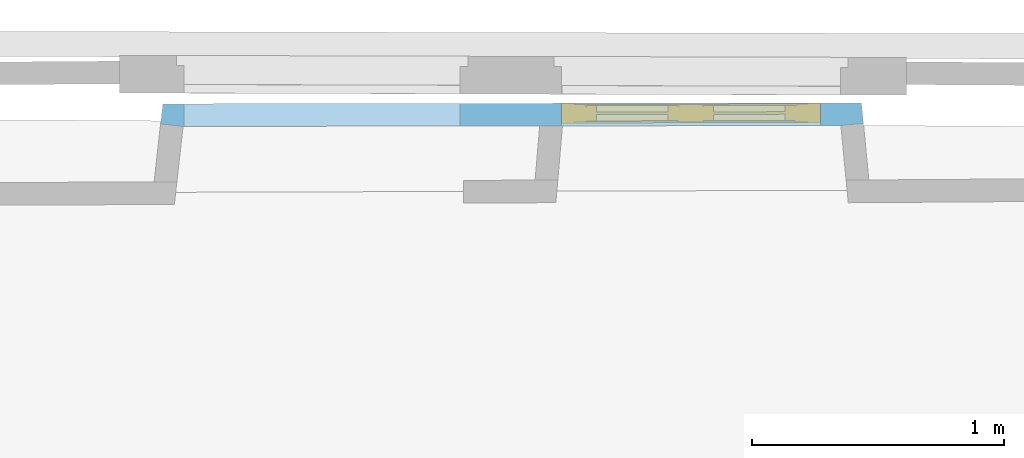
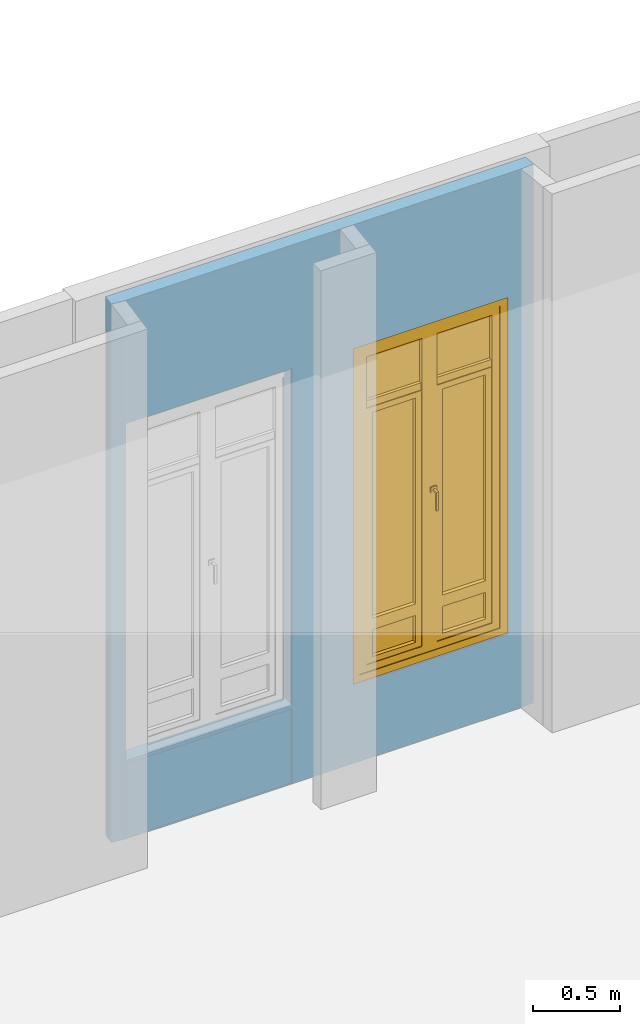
# One storey, part 48 of 66: 1 window, 3 openings, plus 1 element that does not belong to this part.
"""IFC2X3 building model written with IfcOpenShell, lengths in centimetres."""

from ifc_helpers import new_model, entity, si_unit, converted_unit, direction, frame, origin, origin_with_axes, place, context, subcontext, project, spatial, polyline, outline, extrude, faceted_brep, shape, source, transform, mapped, material, material_list, layer, layer_set, layer_usage, type_object, element, fill, save


model = new_model("IFC2X3")

# Units and contexts
model_context = context("Model", 3, precision=0.0001, world=origin(), true_north=direction((0.225632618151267, 0.974212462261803, 0.0)))
body_context = subcontext(model_context, "Body", "Model", "MODEL_VIEW")
footprint_context = subcontext(model_context, "FootPrint", "Model", "MODEL_VIEW")
profile_context = subcontext(model_context, "Profile", "Model", "MODEL_VIEW")
ifc_project = project(units=[si_unit("LENGTHUNIT", "METRE", prefix="CENTI"), si_unit("AREAUNIT", "SQUARE_METRE", prefix="CENTI"), si_unit("VOLUMEUNIT", "CUBIC_METRE", prefix="CENTI"), converted_unit("PLANEANGLEUNIT", "DEGREE", entity("IfcRatioMeasure", 0.0174532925), si_unit("PLANEANGLEUNIT", "RADIAN"), dimensions=[0, 0, 0, 0, 0, 0, 0])], contexts=[model_context])

# Site, building, storey
site_placement = place(None, origin_with_axes())
site = spatial("IfcSite", under=ifc_project, at=site_placement, Name="Default Site", CompositionType="ELEMENT")
building_placement = place(site_placement, origin_with_axes())
building = spatial("IfcBuilding", under=site, at=building_placement, Name="Default Building", CompositionType="ELEMENT")
storey_placement = place(building_placement, frame((0.0, 0.0, 477.795358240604), z_axis=(0.0, 0.0, 1.0), x_axis=(1.0, 0.0, 0.0)))
storey = spatial("IfcBuildingStorey", under=building, at=storey_placement, Name="Niveau 1", CompositionType="ELEMENT", Elevation=477.795358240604)

# Wall, openings, window
ifc_material_1 = material(Name="<aucun>")
ifc_layer = layer(ifc_material_1, 9.0)
ifc_layer_set = layer_set([ifc_layer], Name="default")
ifc_layer_usage = layer_usage(ifc_layer_set, "AXIS2", "POSITIVE", -4.5)
wall_type = type_object("IfcWallType", Name="default 90", PredefinedType="NOTDEFINED", material=ifc_layer_set)
wall_placement = place(storey_placement, frame((553.661144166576, 736.75930817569, 0.0128503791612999), z_axis=(0.0, 0.0, 1.0), x_axis=(0.999998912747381, 0.00147461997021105, 0.0)))
wall = element("IfcWallStandardCase", 1, at=wall_placement, inside=storey, type_object=wall_type, material=ifc_layer_usage, Name="Enveloppe 597463", context=body_context, shape_type="SweptSolid", body=[
    extrude(outline(polyline([(155.087994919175, 4.50000000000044), (5.47248589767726, 4.4999999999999), (4.56417112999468, -3.48246780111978), (13.5064654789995, -4.49999999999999), (155.087994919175, -4.49999999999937), (274.743839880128, -4.4931533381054), (283.631484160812, -3.6551375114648), (282.862536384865, 4.50000000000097), (155.087994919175, 4.50000000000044)])), origin_with_axes(), (0.0, 0.0, 1.0), 376.102165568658),
])
opening_1_placement = place(wall_placement, frame((13.802566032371, 1.13686837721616e-13, 0.0427702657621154), z_axis=(0.0, 0.0, 1.0), x_axis=(-1.0, -3.55097895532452e-15, 0.0)))
cartesian_point_1 = entity("IfcCartesianPoint", [0.0, 0.0, 52.5000000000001])
cartesian_point_2 = entity("IfcCartesianPoint", [-109.572289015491, -4.49999999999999])
element("IfcOpeningElement", 2, at=opening_1_placement, cuts=wall, Name="Baie 103161", ObjectType="Recess", shapes=[
    shape(body_context, "Body", "Brep", [faceted_brep([(-4.97626944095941e-06, 24.4999871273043, -1.72003466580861e-05), (-109.572296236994, 24.4999871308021, -1.72003466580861e-05), (-109.572296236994, 24.4999871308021, 52.4999923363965), (-4.97626944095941e-06, 24.4999871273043, 52.4999923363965), (-4.97693980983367e-06, 3.50000812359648, 52.4999923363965), (-4.97693980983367e-06, 3.50000812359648, -1.72003466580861e-05), (2.24506305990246e-05, 3.50000812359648, -1.72003466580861e-05), (-109.572268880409, 3.49998549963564, -1.72003466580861e-05), (-109.572296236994, 24.5000121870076, -1.72003466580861e-05), (-109.572296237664, 3.49998549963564, -1.72003466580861e-05), (-109.572296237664, 3.49998549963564, 52.4999923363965), (-109.572296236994, 24.5000121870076, 52.4999923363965), (-109.572268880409, 3.49998549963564, 52.4999923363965), (2.24506305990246e-05, 3.50000812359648, 52.4999923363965), (2.24506305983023e-05, 3.49998549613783, -1.72003466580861e-05), (2.24506305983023e-05, 3.49998549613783, 52.4999923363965)], [[[0, 1, 2, 3]], [[3, 4, 5, 0]], [[0, 6, 7, 8]], [[8, 9, 10, 11]], [[11, 12, 13, 3]], [[12, 7, 14, 15]]])]),
    shape(profile_context, "Profile", "GeometricCurveSet", [entity("IfcGeometricCurveSet", [entity("IfcPolyline", [cartesian_point_1, entity("IfcCartesianPoint", [0.0, 0.0, 8.88178419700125e-14]), entity("IfcCartesianPoint", [-109.572289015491, 8.88178419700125e-14, 8.88178419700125e-14]), entity("IfcCartesianPoint", [-109.572289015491, 8.88178419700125e-14, 52.5000000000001]), cartesian_point_1])])]),
    shape(footprint_context, "FootPrint", "GeometricCurveSet", [entity("IfcGeometricCurveSet", [entity("IfcPolyline", [cartesian_point_2, entity("IfcCartesianPoint", [0.0, -4.50000000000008]), entity("IfcCartesianPoint", [0.0, 4.49999999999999]), entity("IfcCartesianPoint", [-109.572289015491, 4.49999999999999]), cartesian_point_2])])]),
])
opening_2_placement = place(wall_placement, frame((13.802566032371, 1.13686837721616e-13, 54.8871496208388), z_axis=(0.0, 0.0, 1.0), x_axis=(-1.0, -3.55097895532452e-15, 0.0)))
cartesian_point_3 = entity("IfcCartesianPoint", [0.0, 0.0, 235.0])
cartesian_point_4 = entity("IfcCartesianPoint", [-109.572289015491, -4.49999999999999])
element("IfcOpeningElement", 3, at=opening_2_placement, cuts=wall, Name="4294966471_11", ObjectType="Opening", shapes=[
    shape(body_context, "Body", "SweptSolid", [extrude(outline(polyline([(0.0, 235.0), (0.0, 8.88178419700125e-14), (109.572289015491, 8.88178419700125e-14), (109.572289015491, 235.0), (0.0, 235.0)])), frame((0.0, -14.5, 0.0), z_axis=(0.0, 1.0, 0.0), x_axis=(-1.0, 0.0, 0.0)), (0.0, 0.0, 1.0), 29.0)]),
    shape(profile_context, "Profile", "GeometricCurveSet", [entity("IfcGeometricCurveSet", [entity("IfcPolyline", [cartesian_point_3, entity("IfcCartesianPoint", [0.0, 0.0, 8.88178419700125e-14]), entity("IfcCartesianPoint", [-109.572289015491, 8.88178419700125e-14, 8.88178419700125e-14]), entity("IfcCartesianPoint", [-109.572289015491, 8.88178419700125e-14, 235.0]), cartesian_point_3])])]),
    shape(footprint_context, "FootPrint", "GeometricCurveSet", [entity("IfcGeometricCurveSet", [entity("IfcPolyline", [cartesian_point_4, entity("IfcCartesianPoint", [0.0, -4.50000000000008]), entity("IfcCartesianPoint", [0.0, 4.49999999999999]), entity("IfcCartesianPoint", [-109.572289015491, 4.49999999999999]), cartesian_point_4])])]),
])
opening_3_placement = place(wall_placement, frame((163.673665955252, 6.82121026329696e-13, 54.5871496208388), z_axis=(0.0, 0.0, 1.0), x_axis=(-1.0, -3.39376964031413e-15, 0.0)))
cartesian_point_5 = entity("IfcCartesianPoint", [0.0, 0.0, 235.0])
cartesian_point_6 = entity("IfcCartesianPoint", [-102.866001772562, -4.49999999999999])
opening_3 = element("IfcOpeningElement", 4, at=opening_3_placement, cuts=wall, Name="4294966468_11", ObjectType="Opening", shapes=[
    shape(body_context, "Body", "SweptSolid", [extrude(outline(polyline([(0.0, 235.0), (0.0, 8.88178419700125e-14), (102.866001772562, 8.88178419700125e-14), (102.866001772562, 235.0), (0.0, 235.0)])), frame((0.0, -14.5, 0.0), z_axis=(0.0, 1.0, 0.0), x_axis=(-1.0, 0.0, 0.0)), (0.0, 0.0, 1.0), 29.0)]),
    shape(profile_context, "Profile", "GeometricCurveSet", [entity("IfcGeometricCurveSet", [entity("IfcPolyline", [cartesian_point_5, entity("IfcCartesianPoint", [0.0, 0.0, 8.88178419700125e-14]), entity("IfcCartesianPoint", [-102.866001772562, 8.88178419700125e-14, 8.88178419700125e-14]), entity("IfcCartesianPoint", [-102.866001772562, 8.88178419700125e-14, 235.0]), cartesian_point_5])])]),
    shape(footprint_context, "FootPrint", "GeometricCurveSet", [entity("IfcGeometricCurveSet", [entity("IfcPolyline", [cartesian_point_6, entity("IfcCartesianPoint", [0.0, -4.49999999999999]), entity("IfcCartesianPoint", [0.0, 4.49999999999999]), entity("IfcCartesianPoint", [-102.866001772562, 4.50000000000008]), cartesian_point_6])])]),
])
ifc_material_2 = material(Name="Transparent")
ifc_material_3 = material(Name="Blanc trafic")
ifc_material_4 = material(Name="Aluminium satiné")
ifc_material_5 = material(Name="Blanc trafic")
ifc_material_list = material_list([ifc_material_2, ifc_material_3, ifc_material_4, ifc_material_5])
window_style = type_object("IfcWindowStyle", Name="FN[R] 2VB[2V] MM", ConstructionType="NOTDEFINED", OperationType="NOTDEFINED", ParameterTakesPrecedence=False, Sizeable=False, material=ifc_material_list)
shared_shape = source(origin_with_axes(), body_context, "Body", "Brep", [
    faceted_brep([(-46.4330017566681, 229.999995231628, -3.99999991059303), (-46.4330017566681, 229.999995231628, 3.99999991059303), (-46.4330017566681, 5.00000007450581, 3.99999991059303), (-46.4330017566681, 5.00000007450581, -3.99999991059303), (-51.433002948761, 234.999990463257, 3.99999991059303), (-51.433002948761, -1.33226762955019e-13, 3.99999991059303), (-51.433002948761, 234.999990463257, -3.99999991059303), (-51.433002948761, -1.33226762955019e-13, -3.99999991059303), (46.4330017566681, 5.0000000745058, 3.99999991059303), (46.4330017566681, 5.0000000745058, -3.99999991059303), (51.433002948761, -1.33226762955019e-13, 3.99999991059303), (46.4330017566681, 5.00000007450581, 3.99999991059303), (51.433002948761, -1.33226762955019e-13, -3.99999991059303), (46.4330017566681, 5.00000007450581, -3.99999991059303), (46.4330017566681, 229.999995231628, 3.99999991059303), (46.4330017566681, 229.999995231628, -3.99999991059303), (51.433002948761, 234.999990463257, 3.99999991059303), (51.433002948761, 234.999990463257, -3.99999991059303)], [[[0, 1, 2, 3]], [[1, 4, 5, 2]], [[4, 6, 7, 5]], [[6, 0, 3, 7]], [[3, 2, 8, 9]], [[2, 5, 10, 11]], [[5, 7, 12, 10]], [[7, 3, 13, 12]], [[13, 11, 14, 15]], [[11, 10, 16, 14]], [[10, 12, 17, 16]], [[12, 13, 15, 17]], [[15, 14, 1, 0]], [[14, 16, 4, 1]], [[16, 17, 6, 4]], [[17, 15, 0, 6]]]),
    faceted_brep([(-42.4329996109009, 225.999999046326, -3.50000001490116), (-41.4330000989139, 225.0, -2.50000050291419), (-41.4330000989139, 10.0000001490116, -2.50000050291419), (-42.4329996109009, 9.00000035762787, -3.50000001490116), (-41.4330005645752, 225.0, -2.5000000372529), (-41.4330005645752, 225.0, 3.50000001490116), (-41.4330005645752, 10.0000001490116, 3.50000001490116), (-41.4330005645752, 10.0000001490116, -2.5000000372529), (-46.4330017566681, 229.999995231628, 3.50000001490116), (-46.4330017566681, 5.00000007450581, 3.50000001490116), (-46.4330017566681, 229.999995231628, -3.50000001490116), (-46.4330017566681, 5.00000007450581, -3.50000001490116), (-41.4330005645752, 10.0000002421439, -2.50000013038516), (-5.00000007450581, 10.0000002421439, -2.50000013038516), (-3.99999991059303, 9.00000035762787, -3.50000001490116), (-5.00000007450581, 10.0000001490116, 3.50000001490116), (-5.00000007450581, 10.0000001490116, -2.5000000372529), (-3.88578058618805e-14, 5.00000007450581, 3.50000001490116), (-3.88578058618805e-14, 5.00000007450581, -3.50000001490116), (-4.99999998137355, 10.0000001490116, -2.49999994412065), (-4.99999998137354, 225.0, -2.49999994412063), (-3.99999991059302, 225.999999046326, -3.50000001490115), (-5.00000007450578, 225.0, 3.50000001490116), (-5.00000007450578, 225.0, -2.5000000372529), (-2.77555756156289e-14, 229.999995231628, 3.50000001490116), (-5.00000007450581, 225.0, 3.50000001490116), (-2.77555757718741e-14, 229.999995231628, -3.50000001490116), (-2.77555757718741e-14, 229.999995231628, 3.50000001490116), (-3.99999991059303, 225.999999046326, -3.50000001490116), (-2.77555756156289e-14, 229.999995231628, -3.50000001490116), (-5.00000007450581, 224.999999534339, -2.50000050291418), (-41.4330005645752, 224.999999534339, -2.50000050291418), (-5.00000007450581, 225.0, -2.5000000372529)], [[[0, 1, 2, 3]], [[4, 5, 6, 7]], [[5, 8, 9, 6]], [[8, 10, 11, 9]], [[10, 0, 3, 11]], [[3, 12, 13, 14]], [[7, 6, 15, 16]], [[6, 9, 17, 15]], [[9, 11, 18, 17]], [[11, 3, 14, 18]], [[14, 19, 20, 21]], [[16, 15, 22, 23]], [[15, 17, 24, 25]], [[17, 18, 26, 27]], [[18, 14, 28, 29]], [[28, 30, 31, 0]], [[32, 25, 5, 4]], [[25, 24, 8, 5]], [[24, 29, 10, 8]], [[29, 28, 0, 10]]]),
    faceted_brep([(-5.00000007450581, 225.0, -0.499999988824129), (-5.00000007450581, 193.499994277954, -0.499999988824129), (-41.4330005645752, 193.499994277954, -0.499999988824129), (-41.4330005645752, 225.0, -0.499999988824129), (-41.4330005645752, 225.0, 0.499999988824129), (-41.4330005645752, 193.499994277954, 0.499999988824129), (-5.00000007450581, 193.499994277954, 0.499999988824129), (-5.00000007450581, 225.0, 0.499999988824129)], [[[0, 1, 2, 3]], [[4, 5, 6, 7]], [[3, 2, 5, 4]], [[2, 1, 6, 5]], [[1, 0, 7, 6]], [[0, 3, 4, 7]]]),
    faceted_brep([(-5.00000007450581, 188.499999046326, 2.5000000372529), (-5.00000007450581, 188.499999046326, -2.5000000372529), (-5.00000007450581, 193.499994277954, -2.5000000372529), (-5.00000007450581, 193.499994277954, 2.5000000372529), (-41.4330005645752, 193.499994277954, 2.5000000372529), (-41.4330005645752, 193.499994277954, -2.5000000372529), (-41.4330005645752, 188.499999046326, -2.5000000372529), (-41.4330005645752, 188.499999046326, 2.5000000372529)], [[[0, 1, 2, 3]], [[4, 5, 6, 7]], [[3, 2, 5, 4]], [[2, 1, 6, 5]], [[1, 0, 7, 6]], [[0, 3, 4, 7]]]),
    faceted_brep([(-37.4330013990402, 184.500002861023, -2.99999993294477), (-37.4330013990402, 184.500002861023, 2.99999993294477), (-37.4330013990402, 40.7750010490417, 2.99999993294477), (-37.4330013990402, 40.7750010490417, -2.99999993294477), (-41.4330005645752, 188.499999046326, 2.99999993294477), (-41.4330005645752, 36.7749989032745, 2.99999993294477), (-41.4330005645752, 188.499999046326, -2.99999993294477), (-41.4330005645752, 36.7749989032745, -2.99999993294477), (-9.00000035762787, 40.7750010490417, 2.99999993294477), (-9.00000035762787, 40.7750010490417, -2.99999993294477), (-5.00000007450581, 36.7749989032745, 2.99999993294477), (-5.00000007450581, 36.7749989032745, -2.99999993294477), (-9.00000035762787, 184.500002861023, 2.99999993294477), (-9.00000035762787, 184.500002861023, -2.99999993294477), (-5.00000007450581, 188.499999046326, 2.99999993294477), (-5.0000000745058, 188.499999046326, -2.99999993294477), (-5.0000000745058, 188.499999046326, 2.99999993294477), (-5.00000007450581, 188.499999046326, -2.99999993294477)], [[[0, 1, 2, 3]], [[1, 4, 5, 2]], [[4, 6, 7, 5]], [[6, 0, 3, 7]], [[3, 2, 8, 9]], [[2, 5, 10, 8]], [[5, 7, 11, 10]], [[7, 3, 9, 11]], [[9, 8, 12, 13]], [[8, 10, 14, 12]], [[10, 11, 15, 16]], [[11, 9, 13, 17]], [[13, 12, 1, 0]], [[12, 14, 4, 1]], [[14, 17, 6, 4]], [[17, 13, 0, 6]]]),
    faceted_brep([(-9.00000035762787, 184.500002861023, -0.499999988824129), (-9.00000035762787, 40.7750010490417, -0.499999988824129), (-37.4330013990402, 40.7750010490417, -0.499999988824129), (-37.4330013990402, 184.500002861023, -0.499999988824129), (-37.4330013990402, 184.500002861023, 0.499999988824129), (-37.4330013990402, 40.7750010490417, 0.499999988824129), (-9.00000035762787, 40.7750010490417, 0.499999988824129), (-9.00000035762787, 184.500002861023, 0.499999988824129), (-9.00000035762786, 184.500002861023, -0.499999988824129), (-9.00000035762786, 184.500002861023, 0.499999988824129)], [[[0, 1, 2, 3]], [[4, 5, 6, 7]], [[3, 2, 5, 4]], [[2, 1, 6, 5]], [[1, 8, 9, 6]], [[0, 3, 4, 7]]]),
    faceted_brep([(-37.4330013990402, 32.7749997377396, -2.99999993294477), (-37.4330013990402, 32.7749997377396, 2.99999993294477), (-37.4330013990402, 14.0000000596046, 2.99999993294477), (-37.4330013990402, 14.0000000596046, -2.99999993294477), (-41.4330005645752, 36.7749989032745, 2.99999993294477), (-41.4330005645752, 10.0000001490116, 2.99999993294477), (-41.4330005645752, 36.7749989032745, -2.99999993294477), (-41.4330005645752, 10.0000001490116, -2.99999993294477), (-9.00000035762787, 14.0000000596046, 2.99999993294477), (-9.00000035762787, 14.0000000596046, -2.99999993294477), (-5.00000007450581, 10.0000001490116, 2.99999993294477), (-5.00000007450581, 10.0000001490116, -2.99999993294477), (-9.00000035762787, 32.7749997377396, 2.99999993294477), (-9.00000035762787, 32.7749997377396, -2.99999993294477), (-5.00000007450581, 36.7749989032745, 2.99999993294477), (-5.00000007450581, 36.7749989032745, -2.99999993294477)], [[[0, 1, 2, 3]], [[1, 4, 5, 2]], [[4, 6, 7, 5]], [[6, 0, 3, 7]], [[3, 2, 8, 9]], [[2, 5, 10, 8]], [[5, 7, 11, 10]], [[7, 3, 9, 11]], [[9, 8, 12, 13]], [[8, 10, 14, 12]], [[10, 11, 15, 14]], [[11, 9, 13, 15]], [[13, 12, 1, 0]], [[12, 14, 4, 1]], [[14, 15, 6, 4]], [[15, 13, 0, 6]]]),
    faceted_brep([(-9.00000035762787, 32.7749997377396, -0.499999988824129), (-9.00000035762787, 14.0000000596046, -0.499999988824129), (-37.4330013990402, 14.0000000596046, -0.499999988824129), (-37.4330013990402, 32.7749997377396, -0.499999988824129), (-37.4330013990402, 32.7749997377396, 0.499999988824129), (-37.4330013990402, 14.0000000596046, 0.499999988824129), (-9.00000035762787, 14.0000000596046, 0.499999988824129), (-9.00000035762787, 32.7749997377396, 0.499999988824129)], [[[0, 1, 2, 3]], [[4, 5, 6, 7]], [[3, 2, 5, 4]], [[2, 1, 6, 5]], [[1, 0, 7, 6]], [[0, 3, 4, 7]]]),
    faceted_brep([(3.99999991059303, 225.999999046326, -3.50000001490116), (4.99999998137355, 225.0, -2.49999994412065), (4.99999998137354, 10.0000001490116, -2.49999994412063), (3.99999991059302, 9.00000035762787, -3.50000001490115), (5.00000007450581, 225.0, -2.5000000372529), (5.00000007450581, 225.0, 3.50000001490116), (5.00000007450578, 10.0000001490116, 3.50000001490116), (5.00000007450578, 10.0000001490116, -2.5000000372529), (-2.77555756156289e-14, 229.999995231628, 3.50000001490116), (-3.88578058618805e-14, 5.00000007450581, 3.50000001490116), (5.00000007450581, 10.0000001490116, 3.50000001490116), (-2.77555756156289e-14, 229.999995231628, -3.50000001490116), (-3.88578057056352e-14, 5.00000007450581, -3.50000001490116), (-3.88578057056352e-14, 5.00000007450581, 3.50000001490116), (3.99999991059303, 9.00000035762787, -3.50000001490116), (-3.88578058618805e-14, 5.00000007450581, -3.50000001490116), (5.00000007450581, 10.0000002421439, -2.50000013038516), (41.4330005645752, 10.0000002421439, -2.50000013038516), (42.4329996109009, 9.00000035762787, -3.50000001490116), (5.00000007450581, 10.0000001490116, -2.5000000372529), (41.4330005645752, 10.0000001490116, 3.50000001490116), (41.4330005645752, 10.0000001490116, -2.5000000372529), (46.4330017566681, 5.00000007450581, 3.50000001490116), (46.4330017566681, 5.00000007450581, -3.50000001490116), (41.4330000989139, 10.0000001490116, -2.50000050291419), (41.4330000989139, 225.0, -2.50000050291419), (42.4329996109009, 225.999999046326, -3.50000001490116), (41.4330005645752, 225.0, 3.50000001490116), (41.4330005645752, 225.0, -2.5000000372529), (46.4330017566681, 229.999995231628, 3.50000001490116), (46.4330017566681, 229.999995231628, -3.50000001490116), (41.4330005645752, 224.999999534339, -2.50000050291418), (5.00000007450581, 224.999999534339, -2.50000050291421), (3.99999991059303, 225.999999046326, -3.50000001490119)], [[[0, 1, 2, 3]], [[4, 5, 6, 7]], [[5, 8, 9, 10]], [[8, 11, 12, 13]], [[11, 0, 14, 15]], [[14, 16, 17, 18]], [[19, 10, 20, 21]], [[10, 9, 22, 20]], [[9, 15, 23, 22]], [[15, 14, 18, 23]], [[18, 24, 25, 26]], [[21, 20, 27, 28]], [[20, 22, 29, 27]], [[22, 23, 30, 29]], [[23, 18, 26, 30]], [[26, 31, 32, 33]], [[28, 27, 5, 4]], [[27, 29, 8, 5]], [[29, 30, 11, 8]], [[30, 26, 0, 11]]]),
    faceted_brep([(4.50000017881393, 119.500005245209, 3.50000001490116), (4.50000017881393, 115.499997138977, 3.50000001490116), (0.499999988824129, 115.499997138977, 3.50000001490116), (0.499999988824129, 119.500005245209, 3.50000001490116), (0.499999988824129, 119.500005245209, 4.30000014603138), (0.499999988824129, 115.499997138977, 4.30000014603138), (4.50000017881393, 115.499997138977, 4.30000014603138), (4.50000017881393, 119.500005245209, 4.30000014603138)], [[[0, 1, 2, 3]], [[4, 5, 6, 7]], [[3, 2, 5, 4]], [[2, 1, 6, 5]], [[1, 0, 7, 6]], [[0, 3, 4, 7]]]),
    faceted_brep([(3.24999988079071, 117.999994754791, 4.30000014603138), (3.24999988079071, 116.999995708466, 4.30000014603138), (1.75000000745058, 116.999995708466, 4.30000014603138), (1.75000000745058, 117.999994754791, 4.30000014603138), (1.75000000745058, 117.999994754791, 8.29999968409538), (1.75000000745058, 116.999995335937, 7.30000026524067), (3.24999988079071, 116.999995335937, 7.30000026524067), (3.24999988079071, 117.999994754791, 8.29999968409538), (1.75000000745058, 116.999995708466, 7.29999989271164), (3.24999988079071, 116.999995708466, 7.29999989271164)], [[[0, 1, 2, 3]], [[4, 5, 6, 7]], [[3, 2, 8, 4]], [[2, 1, 9, 8]], [[1, 0, 7, 9]], [[0, 3, 4, 7]]]),
    faceted_brep([(3.24999988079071, 117.999994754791, 8.29999968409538), (3.24999988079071, 116.999995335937, 7.30000026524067), (1.75000000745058, 116.999995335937, 7.30000026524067), (1.75000000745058, 117.999994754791, 8.29999968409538), (1.75000000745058, 104.999995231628, 8.29999968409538), (1.75000000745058, 104.999995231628, 7.29999989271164), (3.24999988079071, 104.999995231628, 7.29999989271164), (3.24999988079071, 104.999995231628, 8.29999968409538), (1.75000000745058, 116.999995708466, 7.29999989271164), (3.24999988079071, 116.999995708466, 7.29999989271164)], [[[0, 1, 2, 3]], [[4, 5, 6, 7]], [[3, 8, 5, 4]], [[8, 9, 6, 5]], [[9, 0, 7, 6]], [[0, 3, 4, 7]]]),
    faceted_brep([(41.4330005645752, 225.0, -0.499999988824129), (41.4330005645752, 193.499994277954, -0.499999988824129), (5.00000007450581, 193.499994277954, -0.499999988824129), (5.00000007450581, 225.0, -0.499999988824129), (5.00000007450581, 225.0, 0.499999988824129), (5.00000007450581, 193.499994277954, 0.499999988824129), (41.4330005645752, 193.499994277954, 0.499999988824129), (41.4330005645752, 225.0, 0.499999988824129)], [[[0, 1, 2, 3]], [[4, 5, 6, 7]], [[3, 2, 5, 4]], [[2, 1, 6, 5]], [[1, 0, 7, 6]], [[0, 3, 4, 7]]]),
    faceted_brep([(41.4330005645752, 188.499999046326, 2.5000000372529), (41.4330005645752, 188.499999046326, -2.5000000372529), (41.4330005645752, 193.499994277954, -2.5000000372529), (41.4330005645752, 193.499994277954, 2.5000000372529), (5.00000007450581, 193.499994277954, 2.5000000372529), (5.00000007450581, 193.499994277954, -2.5000000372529), (5.00000007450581, 188.499999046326, -2.5000000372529), (5.00000007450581, 188.499999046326, 2.5000000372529)], [[[0, 1, 2, 3]], [[4, 5, 6, 7]], [[3, 2, 5, 4]], [[2, 1, 6, 5]], [[1, 0, 7, 6]], [[0, 3, 4, 7]]]),
    faceted_brep([(9.00000035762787, 184.500002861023, -2.99999993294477), (9.00000035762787, 184.500002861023, 2.99999993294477), (9.00000035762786, 40.7750010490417, 2.99999993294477), (9.00000035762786, 40.7750010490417, -2.99999993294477), (5.00000007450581, 188.499999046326, 2.99999993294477), (5.00000007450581, 36.7749989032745, 2.99999993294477), (9.00000035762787, 40.7750010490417, 2.99999993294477), (5.00000007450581, 188.499999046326, -2.99999993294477), (5.0000000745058, 36.7749989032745, -2.99999993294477), (5.0000000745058, 36.7749989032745, 2.99999993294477), (9.00000035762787, 40.7750010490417, -2.99999993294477), (5.00000007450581, 36.7749989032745, -2.99999993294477), (37.4330013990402, 40.7750010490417, 2.99999993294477), (37.4330013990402, 40.7750010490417, -2.99999993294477), (41.4330005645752, 36.7749989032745, 2.99999993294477), (41.4330005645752, 36.7749989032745, -2.99999993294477), (37.4330013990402, 184.500002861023, 2.99999993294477), (37.4330013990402, 184.500002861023, -2.99999993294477), (41.4330005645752, 188.499999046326, 2.99999993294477), (41.4330005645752, 188.499999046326, -2.99999993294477)], [[[0, 1, 2, 3]], [[1, 4, 5, 6]], [[4, 7, 8, 9]], [[7, 0, 10, 11]], [[10, 6, 12, 13]], [[6, 5, 14, 12]], [[5, 11, 15, 14]], [[11, 10, 13, 15]], [[13, 12, 16, 17]], [[12, 14, 18, 16]], [[14, 15, 19, 18]], [[15, 13, 17, 19]], [[17, 16, 1, 0]], [[16, 18, 4, 1]], [[18, 19, 7, 4]], [[19, 17, 0, 7]]]),
    faceted_brep([(37.4330013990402, 184.500002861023, -0.499999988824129), (37.4330013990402, 40.7750010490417, -0.499999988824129), (9.00000035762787, 40.7750010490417, -0.499999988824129), (9.00000035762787, 184.500002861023, -0.499999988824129), (9.00000035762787, 184.500002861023, 0.499999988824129), (9.00000035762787, 40.7750010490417, 0.499999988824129), (37.4330013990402, 40.7750010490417, 0.499999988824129), (37.4330013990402, 184.500002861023, 0.499999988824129), (9.00000035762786, 40.7750010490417, -0.499999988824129), (9.00000035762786, 40.7750010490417, 0.499999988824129)], [[[0, 1, 2, 3]], [[4, 5, 6, 7]], [[3, 8, 9, 4]], [[2, 1, 6, 5]], [[1, 0, 7, 6]], [[0, 3, 4, 7]]]),
    faceted_brep([(9.00000035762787, 32.7749997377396, -2.99999993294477), (9.00000035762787, 32.7749997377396, 2.99999993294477), (9.00000035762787, 14.0000000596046, 2.99999993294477), (9.00000035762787, 14.0000000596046, -2.99999993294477), (5.00000007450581, 36.7749989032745, 2.99999993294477), (5.00000007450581, 10.0000001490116, 2.99999993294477), (5.00000007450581, 36.7749989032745, -2.99999993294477), (5.00000007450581, 10.0000001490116, -2.99999993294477), (37.4330013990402, 14.0000000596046, 2.99999993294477), (37.4330013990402, 14.0000000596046, -2.99999993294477), (41.4330005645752, 10.0000001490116, 2.99999993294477), (41.4330005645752, 10.0000001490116, -2.99999993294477), (37.4330013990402, 32.7749997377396, 2.99999993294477), (37.4330013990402, 32.7749997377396, -2.99999993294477), (41.4330005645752, 36.7749989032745, 2.99999993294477), (41.4330005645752, 36.7749989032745, -2.99999993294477)], [[[0, 1, 2, 3]], [[1, 4, 5, 2]], [[4, 6, 7, 5]], [[6, 0, 3, 7]], [[3, 2, 8, 9]], [[2, 5, 10, 8]], [[5, 7, 11, 10]], [[7, 3, 9, 11]], [[9, 8, 12, 13]], [[8, 10, 14, 12]], [[10, 11, 15, 14]], [[11, 9, 13, 15]], [[13, 12, 1, 0]], [[12, 14, 4, 1]], [[14, 15, 6, 4]], [[15, 13, 0, 6]]]),
    faceted_brep([(37.4330013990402, 32.7749997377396, -0.499999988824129), (37.4330013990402, 14.0000000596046, -0.499999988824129), (9.00000035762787, 14.0000000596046, -0.499999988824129), (9.00000035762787, 32.7749997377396, -0.499999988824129), (9.00000035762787, 32.7749997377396, 0.499999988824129), (9.00000035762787, 14.0000000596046, 0.499999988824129), (37.4330013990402, 14.0000000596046, 0.499999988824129), (37.4330013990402, 32.7749997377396, 0.499999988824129)], [[[0, 1, 2, 3]], [[4, 5, 6, 7]], [[3, 2, 5, 4]], [[2, 1, 6, 5]], [[1, 0, 7, 6]], [[0, 3, 4, 7]]]),
])
window_placement = place(opening_3_placement, frame((-102.866001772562, -4.49999999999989, 7.105427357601e-15), z_axis=(0.0, 0.0, 1.0), x_axis=(1.0, 0.0, 0.0)))
window = element("IfcWindow", 5, at=window_placement, inside=storey, type_object=window_style, material=ifc_material_list, Name="Fenêtre 103162", OverallHeight=235.0, OverallWidth=102.866001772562, context=body_context, shape_type="MappedRepresentation", body=[
    mapped(shared_shape, transform((51.4330008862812, 4.00000000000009, -8.88178419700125e-14), x_axis=(-1.0, 0.0, 0.0), y_axis=(0.0, 0.0, 1.0), z_axis=(0.0, 1.0, 0.0), scale=1.0, scale2=1.0, scale3=1.0, uniform=False)),
])
fill(opening_3, window)

save(model, "model.ifc")
